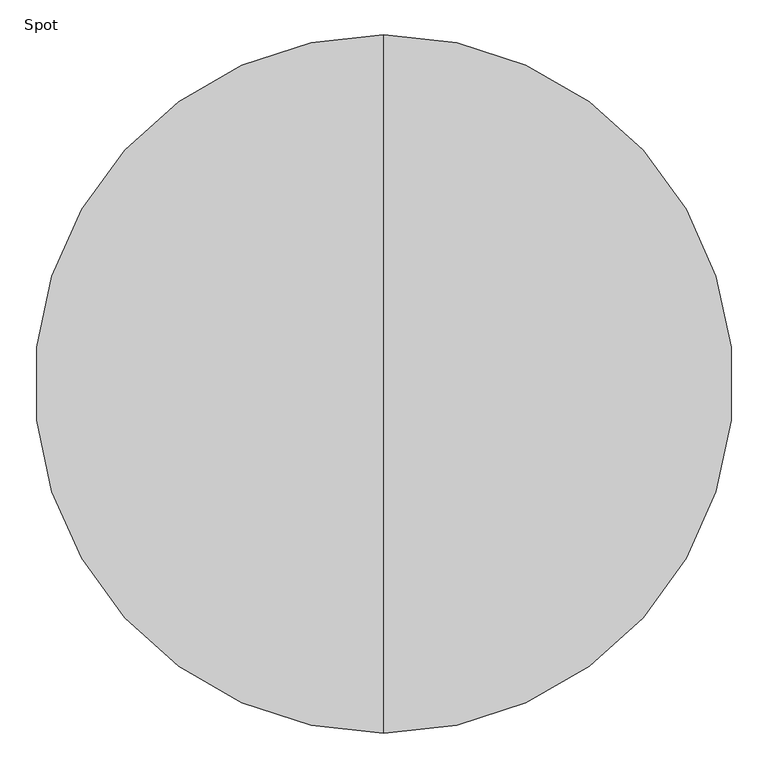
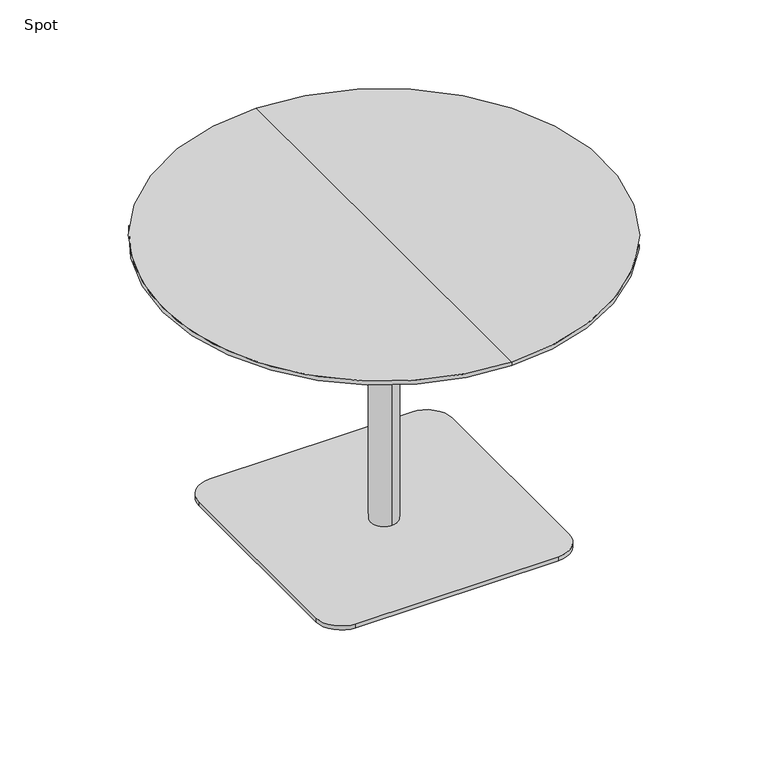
"""IFC4 building model written with IfcOpenShell, lengths in millimetres: furniture geometry, Spot : ø105x72s."""

from ifc_helpers import new_model, si_unit, point, frame, frame_2d, origin, origin_with_axes, place, context, project, spatial, polyline, circle_curve, trimmed, segment, composite_curve, outline, extrude, source, transform, mapped, element, save
from ifc_brep_helpers import plane_surface, cylinder_surface, revolved_surface, advanced_brep


def spot_912e1f16(model_context):
    return source(origin(), model_context, "Body", "SolidModel", [
        advanced_brep(
        [(0.0, -525.0, 720.0), (0.0, 525.0, 720.0), (0.0, 0.0, 720.0), (0.0, 525.0, 710.25), (0.0, -525.0, 710.25), (0.0, 0.0, 698.0), (0.0, -479.2823776, 698.0), (0.0, 479.2823776, 698.0)],
        [
            (0, 1, circle_curve(frame((0.0, 0.0, 720.0), z_axis=(0.0, 0.0, 1.0), x_axis=(0.0, -1.0, 0.0)), 525.0)),
            (1, 2),
            (2, 0),
            (3, 4, circle_curve(frame((0.0, 0.0, 710.25), z_axis=(0.0, 0.0, 1.0), x_axis=(0.0, -1.0, 0.0)), 525.0)),
            (4, 0),
            (0, 1, circle_curve(frame((0.0, 0.0, 720.0), z_axis=(0.0, 0.0, -1.0), x_axis=(0.0, -1.0, 0.0)), 525.0)),
            (1, 3),
            (5, 6),
            (6, 7, circle_curve(frame((0.0, 0.0, 698.0), z_axis=(0.0, 0.0, -1.0), x_axis=(0.0, -1.0, 0.0)), 479.2823776)),
            (7, 5),
            (7, 6, circle_curve(frame((0.0, 0.0, 698.0), z_axis=(0.0, 0.0, -1.0), x_axis=(0.0, -1.0, 0.0)), 479.2823776)),
            (4, 3, circle_curve(frame((0.0, 0.0, 710.25), z_axis=(0.0, 0.0, 1.0), x_axis=(0.0, -1.0, 0.0)), 525.0)),
            (6, 4),
            (3, 7),
        ],
        [
            plane_surface(frame((0.0, 0.0, 720.0), z_axis=(0.0, 0.0, 1.0), x_axis=(0.0, -1.0, 0.0))),
            cylinder_surface(frame((0.0, 0.0, 800.0), z_axis=(0.0, 0.0, -1.0), x_axis=(0.0, -1.0, 0.0)), 525.0),
            plane_surface(frame((0.0, 0.0, 698.0), z_axis=(0.0, 0.0, -1.0), x_axis=(0.0, -1.0, 0.0))),
            revolved_surface(polyline([(0.0, -525.0, 710.25), (0.0, -479.2823776, 698.0)]), (0.0, 0.0, 800.0), (0.0, 0.0, -1.0)),
        ],
        [
            (0, [[1, 2, 3]]),
            (1, [[4, 5, 6, 7]]),
            (2, [[8, 9, 10]]),
            (2, [[-10, 11, -8]]),
            (0, [[-6, -3, -2]]),
            (1, [[12, -7, -1, -5]]),
            (3, [[-9, 13, -4, 14]]),
            (3, [[-11, -14, -12, -13]]),
        ],
    ),
        extrude(outline(composite_curve([segment(trimmed(circle_curve(frame_2d((240.0, 240.0)), 60.0), [point((240.0, 300.0))], [point((300.0, 240.0))], False, "CARTESIAN"), True, "CONTINUOUS"), segment(polyline([(300.0, 240.0), (300.0, -240.0)]), True, "CONTINUOUS"), segment(trimmed(circle_curve(frame_2d((240.0, -240.0)), 60.0), [point((300.0, -240.0))], [point((240.0, -300.0))], False, "CARTESIAN"), True, "CONTINUOUS"), segment(polyline([(240.0, -300.0), (-240.0, -300.0)]), True, "CONTINUOUS"), segment(trimmed(circle_curve(frame_2d((-240.0, -240.0)), 60.0), [point((-240.0, -300.0))], [point((-300.0, -240.0))], False, "CARTESIAN"), True, "CONTINUOUS"), segment(polyline([(-300.0, -240.0), (-300.0, 240.0)]), True, "CONTINUOUS"), segment(trimmed(circle_curve(frame_2d((-240.0, 240.0)), 60.0), [point((-300.0, 240.0))], [point((-240.0, 300.0))], False, "CARTESIAN"), True, "CONTINUOUS"), segment(polyline([(-240.0, 300.0), (240.0, 300.0)]), True, "CONTINUOUS")], self_intersect=False)), origin_with_axes(), (0.0, 0.0, 1.0), 10.0),
        advanced_brep(
        [(0.0, 32.0, 10.0), (0.0, -32.0, 10.0), (0.0, -32.0, 667.406916), (0.0, 32.0, 667.406916), (0.0, 0.0, 10.0), (0.0, 150.0, 698.0), (0.0, -150.0, 698.0), (0.0, 0.0, 698.0), (0.0, 150.0, 686.7213673), (0.0, -150.0, 686.7213673)],
        [
            (0, 1, circle_curve(frame((0.0, 0.0, 10.0), z_axis=(0.0, 0.0, 1.0), x_axis=(0.0, -1.0, 0.0)), 32.0)),
            (1, 2),
            (2, 3, circle_curve(frame((0.0, 0.0, 667.406916), z_axis=(0.0, 0.0, -1.0), x_axis=(0.0, -1.0, 0.0)), 32.0)),
            (3, 0),
            (1, 0, circle_curve(frame((0.0, 0.0, 10.0), z_axis=(0.0, 0.0, 1.0), x_axis=(0.0, -1.0, 0.0)), 32.0)),
            (3, 2, circle_curve(frame((0.0, 0.0, 667.406916), z_axis=(0.0, 0.0, -1.0), x_axis=(0.0, -1.0, 0.0)), 32.0)),
            (4, 1),
            (0, 4),
            (5, 6, circle_curve(frame((0.0, 0.0, 698.0), z_axis=(0.0, 0.0, 1.0), x_axis=(0.0, -1.0, 0.0)), 150.0)),
            (6, 7),
            (7, 5),
            (6, 5, circle_curve(frame((0.0, 0.0, 698.0), z_axis=(0.0, 0.0, 1.0), x_axis=(0.0, -1.0, 0.0)), 150.0)),
            (8, 9, circle_curve(frame((0.0, 0.0, 686.7213673), z_axis=(0.0, 0.0, 1.0), x_axis=(0.0, -1.0, 0.0)), 150.0)),
            (9, 6),
            (5, 8),
            (9, 8, circle_curve(frame((0.0, 0.0, 686.7213673), z_axis=(0.0, 0.0, 1.0), x_axis=(0.0, -1.0, 0.0)), 150.0)),
            (2, 9),
            (8, 3),
        ],
        [
            cylinder_surface(frame((0.0, 0.0, 1060.0), z_axis=(0.0, 0.0, -1.0), x_axis=(0.0, -1.0, 0.0)), 32.0),
            plane_surface(frame((0.0, 0.0, 10.0), z_axis=(0.0, 0.0, -1.0), x_axis=(0.0, -1.0, 0.0))),
            plane_surface(frame((0.0, 0.0, 698.0), z_axis=(0.0, 0.0, 1.0), x_axis=(0.0, -1.0, 0.0))),
            cylinder_surface(frame((0.0, 0.0, 1060.0), z_axis=(0.0, 0.0, -1.0), x_axis=(0.0, -1.0, 0.0)), 150.0),
            revolved_surface(polyline([(0.0, -150.0, 686.7213673), (0.0, -32.0, 667.406916)]), (0.0, 0.0, 1060.0), (0.0, 0.0, -1.0)),
        ],
        [
            (0, [[1, 2, 3, 4]]),
            (0, [[5, -4, 6, -2]]),
            (1, [[7, -1, 8]]),
            (1, [[-8, -5, -7]]),
            (2, [[9, 10, 11]]),
            (2, [[12, -11, -10]]),
            (3, [[13, 14, -9, 15]]),
            (3, [[16, -15, -12, -14]]),
            (4, [[-3, 17, -13, 18]]),
            (4, [[-6, -18, -16, -17]]),
        ],
    ),
        extrude(outline(polyline([(0.0, 0.0), (-20.0, 0.0), (-20.0, 20.0), (0.0, 20.0), (0.0, 0.0)])), origin_with_axes(), (0.0, 0.0, 1.0), 10.0),
    ])


if __name__ == "__main__":
    model = new_model("IFC4")
    model_context = context("Model", 3, world=origin())
    ifc_project = project(units=[si_unit("LENGTHUNIT", "METRE", prefix="MILLI")], contexts=[model_context])
    site = spatial("IfcSite", under=ifc_project)
    building = spatial("IfcBuilding", under=site)
    placement = place(None, origin())
    spot_shape = spot_912e1f16(model_context)
    element("IfcFurniture", 1, ObjectType="Spot : ø105x72s", at=placement, inside=building, context=model_context, shape_type="MappedRepresentation", body=[
        mapped(spot_shape, transform((0.0, 0.0, 0.0), x_axis=(1.0, 0.0, 0.0), y_axis=(0.0, 1.0, 0.0), z_axis=(0.0, 0.0, 1.0))),
    ])
    save(model, "model.ifc")
